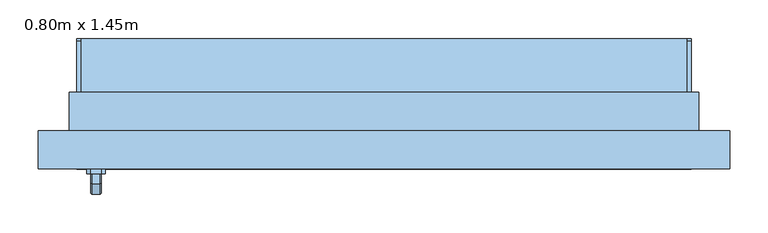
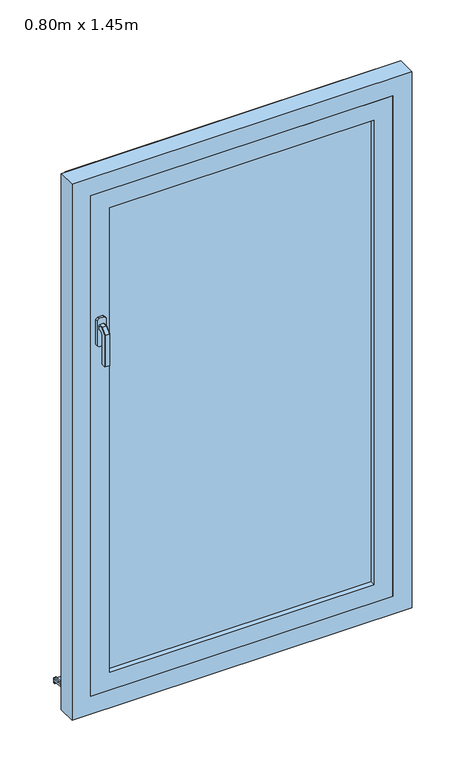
"""IFC4 building model written with IfcOpenShell, lengths in millimetres: window geometry, PF 1 Vantail - Droite : 0.80m x 1.45m."""

from ifc_helpers import new_model, si_unit, point, frame, frame_2d, origin, place, context, project, spatial, polyline, circle_curve, trimmed, segment, composite_curve, outline, extrude, faceted_brep, source, transform, mapped, element, save


def window_0_80m_x_1_45m_ea18c776(model_context):
    return source(origin(), model_context, "Body", "SolidModel", [
        faceted_brep([(-369.3539903, -86.0, 1122.0339292), (-367.9660708, -86.0, 1120.6460097), (-367.9660708, -86.0, 1109.3323012), (-369.3323012, -86.0, 1107.9660708), (-380.6676988, -86.0, 1107.9660708), (-382.0339292, -86.0, 1109.3323012), (-382.0339292, -86.0, 1120.6460097), (-380.6460097, -86.0, 1122.0339292), (-369.3539903, -98.9135489, 1122.0339292), (-367.9660708, -98.3386538, 1120.6460097), (-367.9660708, -111.6460097, 1107.3386538), (-367.9660708, -111.6460097, 1020.0), (-367.9660708, -100.3323012, 1020.0), (-367.9660708, -100.3323012, 1102.6523623), (-367.9660708, -93.6523623, 1109.3323012), (-369.3323012, -93.0864511, 1107.9660708), (-380.6676988, -93.0864511, 1107.9660708), (-382.0339292, -93.6523623, 1109.3323012), (-382.0339292, -100.3323012, 1102.6523623), (-382.0339292, -100.3323012, 1020.0), (-382.0339292, -111.6460097, 1020.0), (-382.0339292, -111.6460097, 1107.3386538), (-382.0339292, -98.3386538, 1120.6460097), (-380.6460097, -98.9135489, 1122.0339292), (-369.3539903, -113.0339292, 1107.9135489), (-369.3323012, -98.9660708, 1102.0864511), (-380.6676988, -98.9660708, 1102.0864511), (-380.6460097, -113.0339292, 1107.9135489), (-369.3539903, -113.0339292, 1020.0), (-380.6460097, -113.0339292, 1020.0), (-380.6676988, -98.9660708, 1020.0), (-369.3323012, -98.9660708, 1020.0)], [[[0, 1, 2, 3, 4, 5, 6, 7]], [[1, 0, 8, 9]], [[2, 1, 9, 10, 11, 12, 13, 14]], [[3, 2, 14, 15]], [[4, 3, 15, 16]], [[5, 4, 16, 17]], [[6, 5, 17, 18, 19, 20, 21, 22]], [[7, 6, 22, 23]], [[0, 7, 23, 8]], [[9, 8, 24, 10]], [[15, 14, 13, 25]], [[16, 15, 25, 26]], [[17, 16, 26, 18]], [[23, 22, 21, 27]], [[8, 23, 27, 24]], [[28, 29, 20, 19, 30, 31, 12, 11]], [[10, 24, 28, 11]], [[25, 13, 12, 31]], [[26, 25, 31, 30]], [[18, 26, 30, 19]], [[27, 21, 20, 29]], [[24, 27, 29, 28]]]),
        extrude(outline(polyline([(1140.0, -368.0), (1140.0, -382.0), (1135.0, -387.0), (1065.0, -387.0), (1060.0, -382.0), (1060.0, -368.0), (1065.0, -363.0), (1135.0, -363.0), (1140.0, -368.0)])), frame((0.0, -86.0, 0.0), z_axis=(0.0, 1.0, 0.0), x_axis=(0.0, 0.0, 1.0)), (0.0, 0.0, 1.0), 6.0),
        extrude(outline(polyline([(90.0288776, 30.7927954), (90.0288776, 19.7145929), (85.0288776, 20.2401141), (85.0288776, 26.0631048), (0.0, 35.0), (0.0, 50.0), (5.0, 50.0), (5.0, 39.7296906), (90.0288776, 30.7927954)])), frame((-400.0, 0.0, 0.0), z_axis=(1.0, 0.0, 0.0), x_axis=(0.0, 1.0, 0.0)), (0.0, 0.0, 1.0), 800.0),
        extrude(outline(composite_curve([segment(polyline([(90.0288776, 30.7927954), (5.0, 39.7296906), (5.0, 44.757232), (86.4469915, 36.1968082)]), True, "CONTINUOUS"), segment(trimmed(circle_curve(frame_2d((86.0288776, 32.2187207)), 4.0), [point((86.4469915, 36.1968082))], [point((90.0288776, 32.2187207))], False, "CARTESIAN"), True, "CONTINUOUS"), segment(polyline([(90.0288776, 32.2187207), (90.0288776, 30.7927954)]), True, "CONTINUOUS")], self_intersect=False)), frame((-400.0, 0.0, 0.0), z_axis=(1.0, 0.0, 0.0), x_axis=(0.0, 1.0, 0.0)), (0.0, 0.0, 1.0), 5.0),
        extrude(outline(composite_curve([segment(polyline([(90.0288776, 30.7927954), (5.0, 39.7296906), (5.0, 44.757232), (86.4469915, 36.1968082)]), True, "CONTINUOUS"), segment(trimmed(circle_curve(frame_2d((86.0288776, 32.2187207)), 4.0), [point((86.4469915, 36.1968082))], [point((90.0288776, 32.2187207))], False, "CARTESIAN"), True, "CONTINUOUS"), segment(polyline([(90.0288776, 32.2187207), (90.0288776, 30.7927954)]), True, "CONTINUOUS")], self_intersect=False)), frame((395.0, 0.0, 0.0), z_axis=(1.0, 0.0, 0.0), x_axis=(0.0, 1.0, 0.0)), (0.0, 0.0, 1.0), 5.0),
        extrude(outline(polyline([(-350.0, -54.0), (350.0, -54.0), (350.0, -66.0), (-350.0, -66.0), (-350.0, -54.0)])), frame((0.0, 0.0, 135.0), z_axis=(0.0, 0.0, 1.0), x_axis=(1.0, 0.0, 0.0)), (0.0, 0.0, 1.0), 1300.0),
        extrude(outline(polyline([(85.0, 400.0), (1485.0, 400.0), (1485.0, -400.0), (85.0, -400.0), (85.0, 400.0)]), holes=[polyline([(135.0, -350.0), (1435.0, -350.0), (1435.0, 350.0), (135.0, 350.0), (135.0, -350.0)])]), frame((0.0, -80.0, 0.0), z_axis=(0.0, 1.0, 0.0), x_axis=(0.0, 0.0, 1.0)), (0.0, 0.0, 1.0), 40.0),
        faceted_brep([(-450.0, -80.0, 35.0), (-450.0, -30.0, 35.0), (-400.0, -30.0, 35.0), (-400.0, 0.0, 35.0), (400.0, 0.0, 35.0), (400.0, -30.0, 35.0), (450.0, -30.0, 35.0), (450.0, -80.0, 35.0), (-450.0, -30.0, 1535.0), (450.0, -30.0, 1535.0), (400.0, -30.0, 74.3761425), (-400.0, -30.0, 74.3761425), (-385.0, -30.0, 1470.0), (-385.0, -30.0, 100.0), (385.0, -30.0, 100.0), (385.0, -30.0, 1470.0), (-385.0, -40.0, 1470.0), (-385.0, -40.0, 100.0), (400.0, -40.0, 1485.0), (-400.0, -40.0, 1485.0), (-400.0, -40.0, 85.0), (400.0, -40.0, 85.0), (385.0, -40.0, 1470.0), (385.0, -40.0, 100.0), (-400.0, -80.0, 1485.0), (-400.0, -80.0, 85.0), (450.0, -80.0, 1535.0), (-450.0, -80.0, 1535.0), (400.0, -80.0, 1485.0), (400.0, -80.0, 85.0), (-400.0, 20.0, 60.9786829), (-400.0, 20.0, 45.0), (-400.0, 10.0, 45.0), (-400.0, 10.0, 50.0), (-400.0, 0.0, 50.0), (400.0, 0.0, 50.0), (400.0, 10.0, 50.0), (400.0, 10.0, 45.0), (400.0, 20.0, 45.0), (400.0, 20.0, 60.9786829)], [[[0, 1, 2, 3, 4, 5, 6, 7]], [[1, 8, 9, 6, 5, 10, 11, 2], [12, 13, 14, 15]], [[12, 16, 17, 13]], [[18, 19, 20, 21], [16, 22, 23, 17]], [[20, 19, 24, 25]], [[0, 7, 26, 27], [28, 29, 25, 24]], [[1, 0, 27, 8]], [[12, 15, 22, 16]], [[19, 18, 28, 24]], [[9, 8, 27, 26]], [[22, 15, 14, 23]], [[28, 18, 21, 29]], [[6, 9, 26, 7]], [[11, 30, 31, 32, 33, 34, 3, 2]], [[4, 35, 36, 37, 38, 39, 10, 5]], [[25, 29, 21, 20]], [[17, 23, 14, 13]], [[30, 11, 10, 39]], [[31, 30, 39, 38]], [[32, 31, 38, 37]], [[33, 32, 37, 36]], [[34, 33, 36, 35]], [[3, 34, 35, 4]]]),
        extrude(outline(polyline([(35.0, -410.0), (35.0, -400.0), (1485.0, -400.0), (1485.0, 400.0), (35.0, 400.0), (35.0, 410.0), (1495.0, 410.0), (1495.0, -410.0), (35.0, -410.0)])), frame((0.0, -30.0, 0.0), z_axis=(0.0, 1.0, 0.0), x_axis=(0.0, 0.0, 1.0)), (0.0, 0.0, 1.0), 50.0),
    ])


if __name__ == "__main__":
    model = new_model("IFC4")
    model_context = context("Model", 3, world=origin())
    ifc_project = project(units=[si_unit("LENGTHUNIT", "METRE", prefix="MILLI")], contexts=[model_context])
    site = spatial("IfcSite", under=ifc_project)
    building = spatial("IfcBuilding", under=site)
    placement = place(None, origin())
    window_0_80m_x_1_45m_shape = window_0_80m_x_1_45m_ea18c776(model_context)
    element("IfcWindow", 1, ObjectType="PF 1 Vantail - Droite : 0.80m x 1.45m", at=placement, inside=building, context=model_context, shape_type="MappedRepresentation", body=[
        mapped(window_0_80m_x_1_45m_shape, transform((0.0, 0.0, 0.0), x_axis=(1.0, 0.0, 0.0), y_axis=(0.0, 1.0, 0.0), z_axis=(0.0, 0.0, 1.0))),
    ])
    save(model, "model.ifc")
